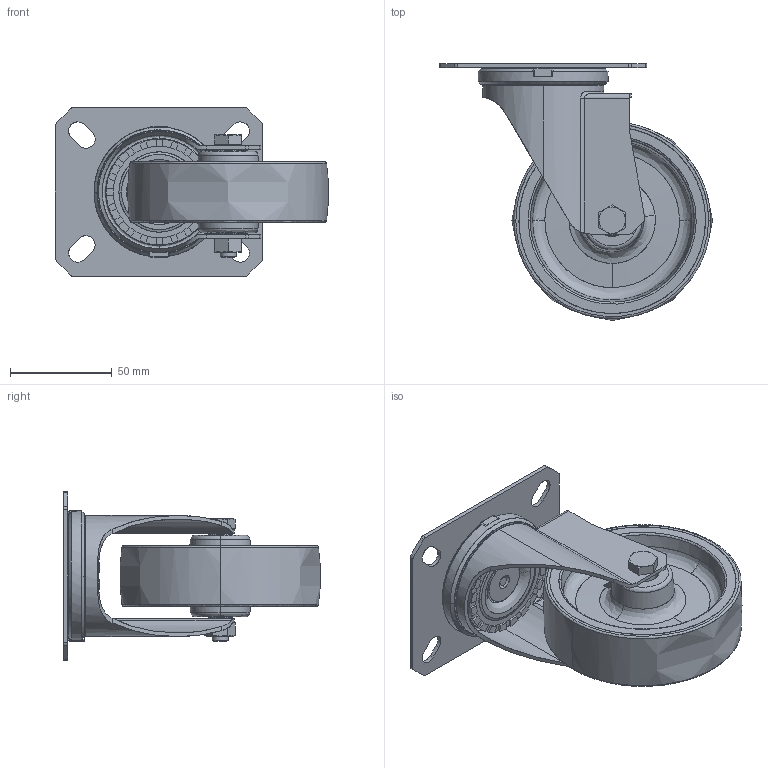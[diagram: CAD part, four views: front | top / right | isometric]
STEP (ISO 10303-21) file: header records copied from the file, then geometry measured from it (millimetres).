
FILE_DESCRIPTION(('STEP AP203'),'2;1');
FILE_NAME('21130_CL.stp','2011-07-28T16:00:04',(''),(''),'2009.3.110','THINKDESIGN','');
FILE_SCHEMA(('CONFIG_CONTROL_DESIGN'));
Bounding box: 134.39 x 126.34 x 83 mm (x, y, z)
Volume: 6306.1 mm3; surface area: 89877.7 mm2
Topology: 3 solids, 3 shells, 381 faces, 3165 edges, 3120 vertices
Faces by surface type: plane 160, bspline 133, cylinder 88
Full cylindrical faces by diameter (mm): 6.647 x1, 8 x1, 9 x1, 11.63 x1, 12 x1
Entity records: 28382 total; most frequent: CARTESIAN_POINT 17502, COMPOSITE_CURVE_SEGMENT 3046, DIRECTION 1761, TRIMMED_CURVE 909, QUASI_UNIFORM_CURVE 761, VECTOR 711, LINE 711, AXIS2_PLACEMENT_3D 525
